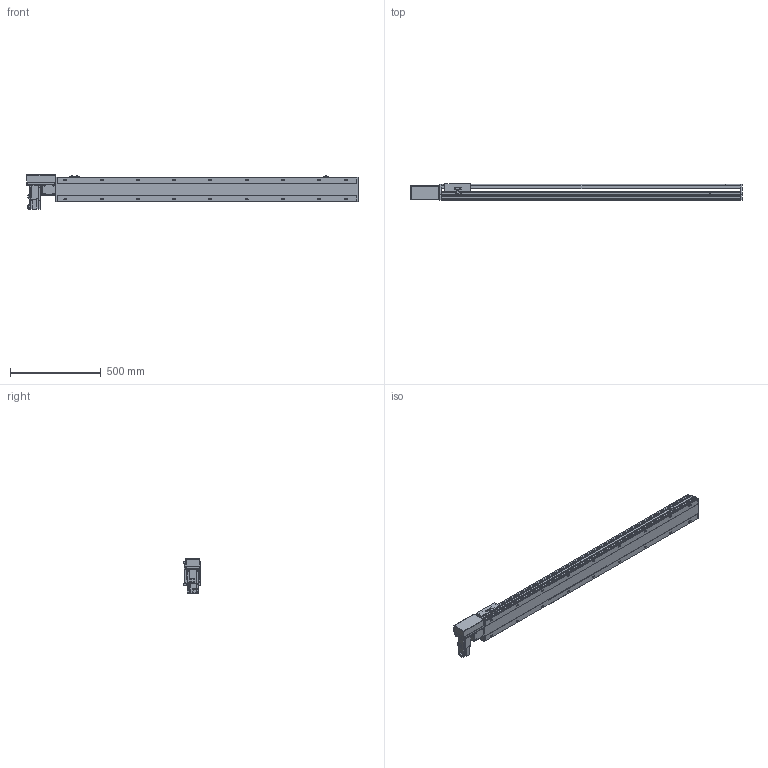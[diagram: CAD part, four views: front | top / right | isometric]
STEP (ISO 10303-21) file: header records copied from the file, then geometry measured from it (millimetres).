
FILE_DESCRIPTION(/* description */ ('STEP AP214'),/* implementation_level */ '2;1');
FILE_NAME(/* name */ 'PBS140S-P40-S1400-R-T40-C1-N(0)',/* time_stamp */ '2022-06-09T02:17:40+02:00',/* author */ ('License CC BY-ND 4.0'),/* organization */ ('CADENAS'),/* preprocessor_version */ 'ST-DEVELOPER v18.102',/* originating_system */ 'PARTsolutions',/* authorisation */ ' ');
FILE_SCHEMA (('AUTOMOTIVE_DESIGN {1 0 10303 214 3 1 1}'));
Length unit declared in the file: millimetre
Products named in the file (7): PBS140S-P40-S1400-R-T40-C1-N(0); PBS140S_sensor; PBS140S_plant; PBS140S_sliser; T40-p1; PBS140ST-R_motors; PBS140S-S1400()_body
Assembly tree (8 placements, depth 2):
  PBS140S-P40-S1400-R-T40-C1-N(0)
    PBS140S_sensor  x3
    PBS140S_plant
    PBS140S_sliser
    T40-p1
    PBS140ST-R_motors
    PBS140S-S1400()_body
Bounding box: 1833 x 93 x 189.7 mm (x, y, z)
Volume: 8861379.3 mm3; surface area: 1516985.5 mm2
Topology: 8 solids, 8 shells, 1115 faces, 2951 edges, 1931 vertices
Faces by surface type: plane 708, cylinder 353, cone 44, sphere 8, torus 2
Full cylindrical faces by diameter (mm): 3.242 x4, 4 x2, 4.134 x4, 4.4 x8, 4.5 x2, 4.8 x4, 4.917 x26, 5.5 x7, 6 x2, 7 x20, 7.5 x8, 8 x12, 8.5 x4, 10.5 x18, 14 x1, 30 x2, 50 x2
Entity records: 31954 total; most frequent: CARTESIAN_POINT 5928, DIRECTION 5418, ORIENTED_EDGE 5122, EDGE_CURVE 2561, AXIS2_PLACEMENT_3D 1889, VERTEX_POINT 1777, LINE 1640, VECTOR 1640
